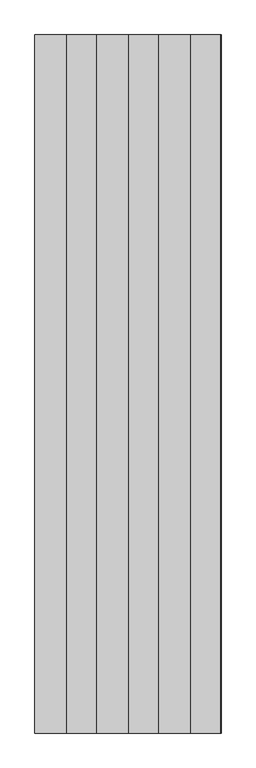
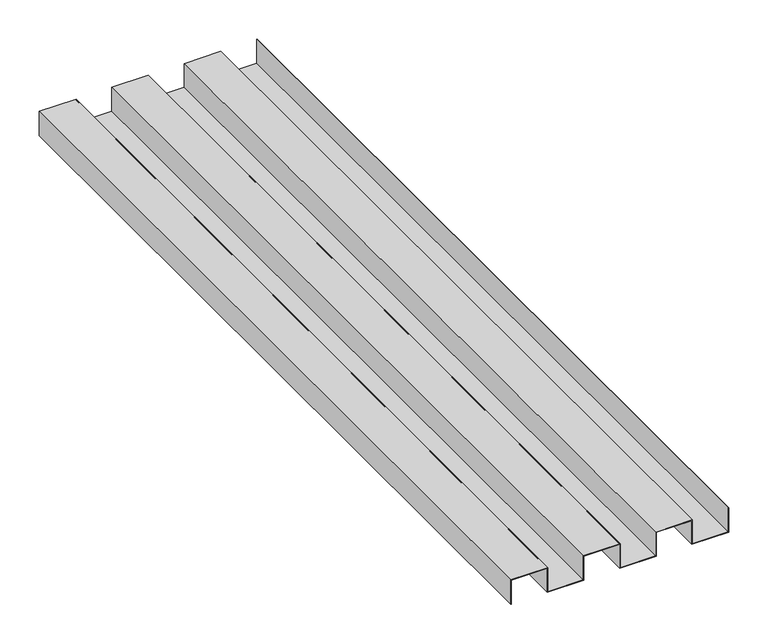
"""IFC4 building model written with IfcOpenShell, lengths in millimetres: proxy geometry, AQUAPLAST - Lamel elewacyjny : Lamel elewacyjny."""

from ifc_helpers import new_model, si_unit, frame, origin, place, context, project, spatial, polyline, outline, extrude, source, transform, mapped, element, save


def specialty_equipment_0bf16a45(model_context):
    return source(origin(), model_context, "Body", "SweptSolid", [
        extrude(outline(polyline([(50.0, 158.4), (88.0, 158.4), (88.0, 157.6), (50.8, 157.6), (50.8, 105.1), (88.0, 105.1), (88.0, 51.0), (50.8, 51.0), (50.8, -1.2), (88.0, -1.2), (88.0, -55.3), (50.8, -55.3), (50.8, -107.5), (88.0, -107.5), (88.0, -161.6), (50.0, -161.6), (50.0, -160.8), (87.2, -160.8), (87.2, -108.3), (50.0, -108.3), (50.0, -54.5), (87.2, -54.5), (87.2, -2.0), (50.0, -2.0), (50.0, 51.8), (87.2, 51.8), (87.2, 104.3), (50.0, 104.3), (50.0, 158.4)])), frame((0.0, -1200.0, 0.0), z_axis=(0.0, 1.0, 0.0), x_axis=(0.0, 0.0, 1.0)), (0.0, 0.0, 1.0), 1200.0),
    ])


if __name__ == "__main__":
    model = new_model("IFC4")
    model_context = context("Model", 3, world=origin())
    ifc_project = project(units=[si_unit("LENGTHUNIT", "METRE", prefix="MILLI")], contexts=[model_context])
    site = spatial("IfcSite", under=ifc_project)
    building = spatial("IfcBuilding", under=site)
    placement = place(None, origin())
    specialty_equipment_shape = specialty_equipment_0bf16a45(model_context)
    element("IfcBuildingElementProxy", 1, Name="AQUAPLAST - Lamel elewacyjny : Lamel elewacyjny", ObjectType="AQUAPLAST - Lamel elewacyjny : Lamel elewacyjny", at=placement, inside=building, context=model_context, shape_type="MappedRepresentation", body=[
        mapped(specialty_equipment_shape, transform((0.0, 0.0, 0.0), x_axis=(1.0, 0.0, 0.0), y_axis=(0.0, 1.0, 0.0), z_axis=(0.0, 0.0, 1.0))),
    ])
    save(model, "model.ifc")
